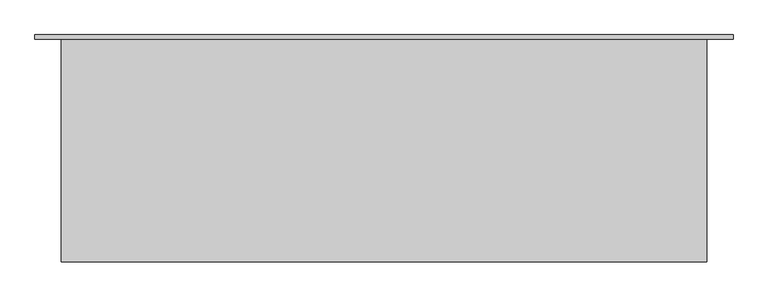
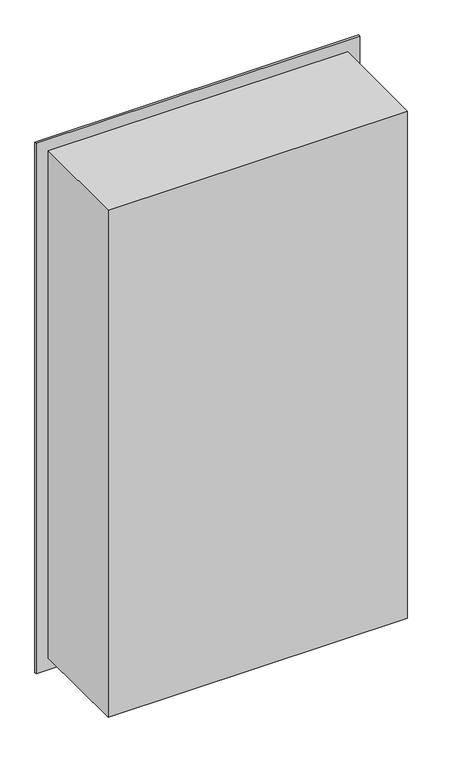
"""IFC4 building model written with IfcOpenShell, lengths in millimetres: proxy geometry, 1500x2700x600 Manway Riser."""

from ifc_helpers import new_model, si_unit, origin, place, context, project, spatial, faceted_brep, source, transform, mapped, element, save


def generic_models_98b37f22(model_context):
    return source(origin(), model_context, "Body", "Brep", [
        faceted_brep([(-758.0, -534.06, 1358.0), (-758.0, -534.06, -1358.0), (758.0, -534.06, -1358.0), (758.0, -534.06, 1358.0), (820.0, 0.0, -1420.0), (-820.0, 0.0, -1420.0), (-820.0, 0.0, 1420.0), (820.0, 0.0, 1420.0), (-758.0, -10.0, -1358.0), (758.0, -10.0, -1358.0), (-820.0, -10.0, -1420.0), (820.0, -10.0, -1420.0), (820.0, -10.0, 1420.0), (-820.0, -10.0, 1420.0), (-758.0, -10.0, 1358.0), (758.0, -10.0, 1358.0)], [[[0, 1, 2, 3]], [[4, 5, 6, 7]], [[2, 1, 8, 9]], [[10, 11, 12, 13], [9, 8, 14, 15]], [[2, 9, 15, 3]], [[3, 15, 14, 0]], [[0, 14, 8, 1]], [[5, 4, 11, 10]], [[6, 5, 10, 13]], [[7, 6, 13, 12]], [[4, 7, 12, 11]]]),
    ])


if __name__ == "__main__":
    model = new_model("IFC4")
    model_context = context("Model", 3, world=origin())
    ifc_project = project(units=[si_unit("LENGTHUNIT", "METRE", prefix="MILLI")], contexts=[model_context])
    site = spatial("IfcSite", under=ifc_project)
    building = spatial("IfcBuilding", under=site)
    placement = place(None, origin())
    generic_models_shape = generic_models_98b37f22(model_context)
    element("IfcBuildingElementProxy", 1, Name="1500x2700x600 Manway Riser", ObjectType="1500x2700x600 Manway Riser", at=placement, inside=building, context=model_context, shape_type="MappedRepresentation", body=[
        mapped(generic_models_shape, transform((0.0, 0.0, 0.0), x_axis=(1.0, 0.0, 0.0), y_axis=(0.0, 1.0, 0.0), z_axis=(0.0, 0.0, 1.0))),
    ])
    save(model, "model.ifc")
